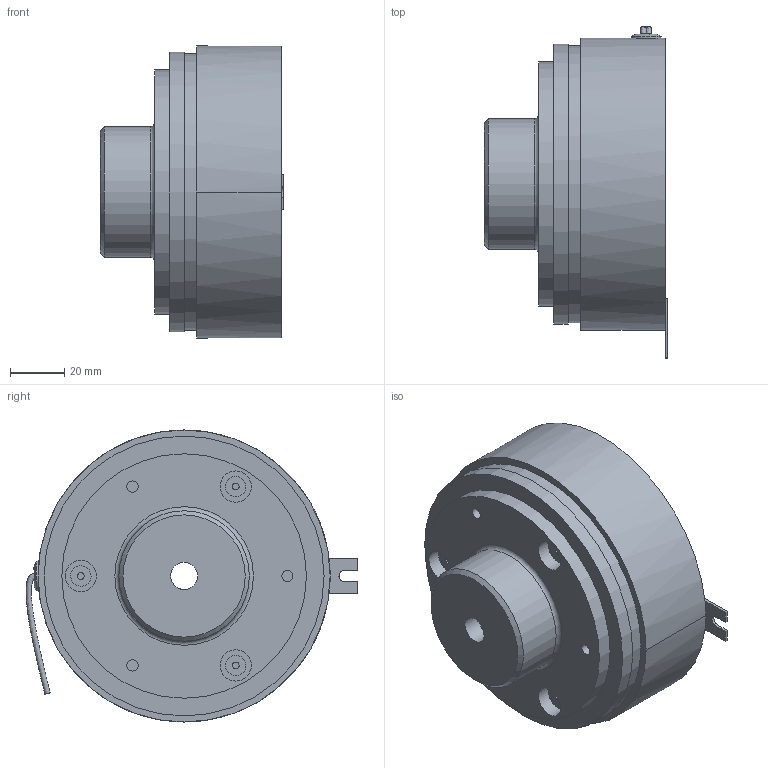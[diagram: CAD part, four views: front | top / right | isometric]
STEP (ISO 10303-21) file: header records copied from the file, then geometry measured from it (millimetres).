
FILE_DESCRIPTION(/* description */ (''),/* implementation_level */ '2;1');
FILE_NAME(/* name */ 'X:\INVENTOR\DISEGNI\08_Freni_Friz_Elettmag_Monodisco\08_25 EMSL\08_25_100_02 EMSL100_ME\08-25_100_02 EMSL100_ME@STEP.stp',/* time_stamp */ '2023-02-27T11:07:35+01:00',/* author */ ('alessio'),/* organization */ (''),/* preprocessor_version */ 'ST-DEVELOPER v18.1',/* originating_system */ 'Autodesk Inventor 2021',/* authorisation */ '');
FILE_SCHEMA (('AUTOMOTIVE_DESIGN { 1 0 10303 214 3 1 1 }'));
Length unit declared in the file: millimetre
Products named in the file (1): 08.25.100.01 EMSL100_ME
Bounding box: 67.6 x 122.19 x 107.5 mm (x, y, z)
Volume: 330620.7 mm3; surface area: 98804.4 mm2
Topology: 3 solids, 5 shells, 287 faces, 726 edges, 451 vertices
Faces by surface type: cylinder 96, plane 94, torus 62, bspline 15, cone 11, sphere 9
Full cylindrical faces by diameter (mm): 2.5 x7, 4 x1, 4.134 x3, 5.2 x6, 6.647 x1, 7.5 x3, 10 x1, 11 x1, 11.5 x6, 33 x1, 35 x3, 43.64 x2, 45 x1, 48 x1, 53.36 x2, 55 x1, 60 x1, 62 x4, 63.5 x1, 65 x1, 72 x1, 72.2 x1, 77.5 x1, 90 x1, 93.5 x1, 102 x1, 102.2 x1, 103 x1
Entity records: 11168 total; most frequent: CARTESIAN_POINT 3985, DIRECTION 1547, ORIENTED_EDGE 1416, EDGE_CURVE 708, AXIS2_PLACEMENT_3D 678, VERTEX_POINT 452, CIRCLE 405, EDGE_LOOP 367
